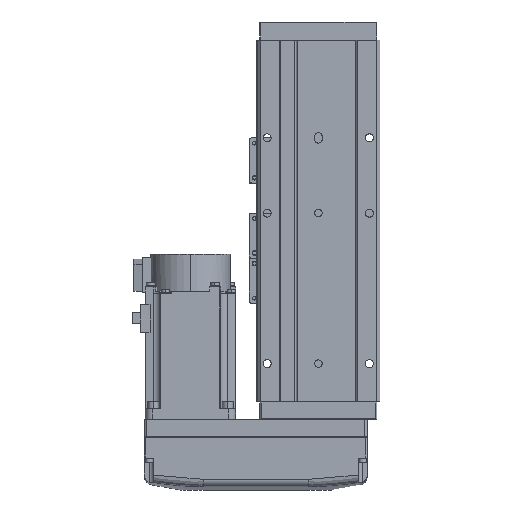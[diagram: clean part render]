
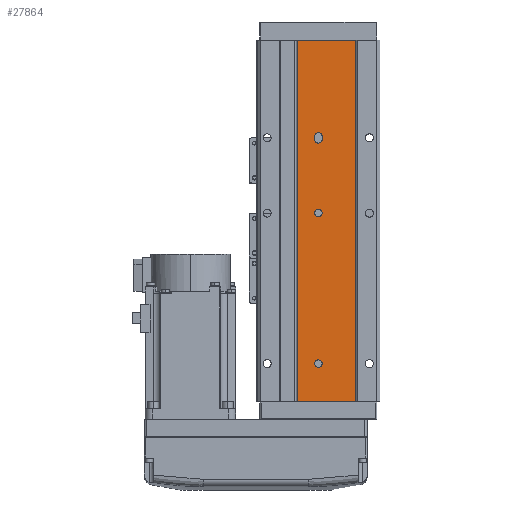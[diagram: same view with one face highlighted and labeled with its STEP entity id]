
A CAD part, front view. The second image highlights one B-rep face of the part: STEP entity #27864.
In plain terms, the highlighted planar face has unit normal (0, -1, 0).
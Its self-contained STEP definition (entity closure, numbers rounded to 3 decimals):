
#172 = VERTEX_POINT ( 'NONE', #9194 ) ;
#731 = AXIS2_PLACEMENT_3D ( 'NONE', #40011, #12104, #24539 ) ;
#1047 = DIRECTION ( 'NONE',  ( 0., 0., -1. ) ) ;
#1409 = AXIS2_PLACEMENT_3D ( 'NONE', #11039, #23472, #35903 ) ;
#2499 = VERTEX_POINT ( 'NONE', #30270 ) ;
#2548 = CARTESIAN_POINT ( 'NONE',  ( 0., 1., 92.5 ) ) ;
#2999 = DIRECTION ( 'NONE',  ( 0., 0., -1. ) ) ;
#3251 = DIRECTION ( 'NONE',  ( 1., 0., 0. ) ) ;
#3665 = VECTOR ( 'NONE', #3251, 1000. ) ;
#3943 = ORIENTED_EDGE ( 'NONE', *, *, #11021, .F. ) ;
#4097 = DIRECTION ( 'NONE',  ( 0., 0., 1. ) ) ;
#4433 = VERTEX_POINT ( 'NONE', #4476 ) ;
#4476 = CARTESIAN_POINT ( 'NONE',  ( -2.5, 1., -56. ) ) ;
#5102 = CARTESIAN_POINT ( 'NONE',  ( 0., 1., -54. ) ) ;
#5405 = VECTOR ( 'NONE', #32458, 1000. ) ;
#5483 = EDGE_CURVE ( 'NONE', #8279, #35400, #18282, .T. ) ;
#6076 = VERTEX_POINT ( 'NONE', #7287 ) ;
#6303 = ORIENTED_EDGE ( 'NONE', *, *, #12725, .T. ) ;
#6818 = DIRECTION ( 'NONE',  ( 0., -1., 0. ) ) ;
#7103 = CARTESIAN_POINT ( 'NONE',  ( -25., 1., 120. ) ) ;
#7138 = PLANE ( 'NONE',  #31152 ) ;
#7261 = CIRCLE ( 'NONE', #30063, 2.5 ) ;
#7287 = CARTESIAN_POINT ( 'NONE',  ( 0., 1., -58.5 ) ) ;
#7595 = LINE ( 'NONE', #20025, #5405 ) ;
#7989 = EDGE_CURVE ( 'NONE', #38067, #2499, #18730, .T. ) ;
#8279 = VERTEX_POINT ( 'NONE', #2548 ) ;
#8575 = ORIENTED_EDGE ( 'NONE', *, *, #26533, .F. ) ;
#9076 = CARTESIAN_POINT ( 'NONE',  ( 0., 1., -7.5 ) ) ;
#9194 = CARTESIAN_POINT ( 'NONE',  ( 14., 1., -120. ) ) ;
#9606 = ORIENTED_EDGE ( 'NONE', *, *, #17438, .F. ) ;
#9710 = CARTESIAN_POINT ( 'NONE',  ( 0., 1., 97.5 ) ) ;
#9737 = CARTESIAN_POINT ( 'NONE',  ( 14., 1., 120. ) ) ;
#10206 = FACE_BOUND ( 'NONE', #28275, .T. ) ;
#10619 = DIRECTION ( 'NONE',  ( 1., 0., 0. ) ) ;
#10706 = CARTESIAN_POINT ( 'NONE',  ( 0., 1., -5. ) ) ;
#11021 = EDGE_CURVE ( 'NONE', #16786, #23511, #37825, .T. ) ;
#11039 = CARTESIAN_POINT ( 'NONE',  ( 0., 1., -56. ) ) ;
#11114 = EDGE_LOOP ( 'NONE', ( #6303, #20455, #28380, #32381 ) ) ;
#11877 = CIRCLE ( 'NONE', #34655, 2.5 ) ;
#12104 = DIRECTION ( 'NONE',  ( 0., -1., 0. ) ) ;
#12144 = LINE ( 'NONE', #24578, #38215 ) ;
#12201 = EDGE_CURVE ( 'NONE', #6076, #23292, #11877, .T. ) ;
#12450 = VECTOR ( 'NONE', #10619, 1000. ) ;
#12725 = EDGE_CURVE ( 'NONE', #30447, #172, #26096, .T. ) ;
#13084 = EDGE_LOOP ( 'NONE', ( #8575, #3943, #29045, #18595, #9606 ) ) ;
#13118 = EDGE_CURVE ( 'NONE', #19646, #22037, #7261, .T. ) ;
#14357 = CIRCLE ( 'NONE', #37147, 2.5 ) ;
#14448 = CARTESIAN_POINT ( 'NONE',  ( 0., 1., -5. ) ) ;
#14974 = VECTOR ( 'NONE', #22175, 1000. ) ;
#15328 = AXIS2_PLACEMENT_3D ( 'NONE', #14448, #26892, #39308 ) ;
#16268 = EDGE_CURVE ( 'NONE', #2499, #172, #37657, .T. ) ;
#16287 = EDGE_LOOP ( 'NONE', ( #16758, #27675 ) ) ;
#16528 = LINE ( 'NONE', #28969, #26335 ) ;
#16707 = CARTESIAN_POINT ( 'NONE',  ( 0., 1., -2.5 ) ) ;
#16758 = ORIENTED_EDGE ( 'NONE', *, *, #13118, .F. ) ;
#16786 = VERTEX_POINT ( 'NONE', #22335 ) ;
#17432 = CARTESIAN_POINT ( 'NONE',  ( 2.5, 1., -56. ) ) ;
#17438 = EDGE_CURVE ( 'NONE', #4433, #6076, #18988, .T. ) ;
#17525 = DIRECTION ( 'NONE',  ( 0., -1., 0. ) ) ;
#18282 = CIRCLE ( 'NONE', #731, 2.5 ) ;
#18477 = CARTESIAN_POINT ( 'NONE',  ( 0., 1., 95. ) ) ;
#18595 = ORIENTED_EDGE ( 'NONE', *, *, #12201, .F. ) ;
#18730 = LINE ( 'NONE', #31165, #3665 ) ;
#18988 = CIRCLE ( 'NONE', #1409, 2.5 ) ;
#19235 = DIRECTION ( 'NONE',  ( 0., 0., -1. ) ) ;
#19564 = CARTESIAN_POINT ( 'NONE',  ( -25., 1., 120. ) ) ;
#19646 = VERTEX_POINT ( 'NONE', #9076 ) ;
#20025 = CARTESIAN_POINT ( 'NONE',  ( 2.5, 1., -54. ) ) ;
#20237 = AXIS2_PLACEMENT_3D ( 'NONE', #5102, #17525, #29963 ) ;
#20455 = ORIENTED_EDGE ( 'NONE', *, *, #16268, .F. ) ;
#22037 = VERTEX_POINT ( 'NONE', #16707 ) ;
#22175 = DIRECTION ( 'NONE',  ( 0., 0., -1. ) ) ;
#22335 = CARTESIAN_POINT ( 'NONE',  ( 2.5, 1., -54. ) ) ;
#22642 = FACE_BOUND ( 'NONE', #16287, .T. ) ;
#23147 = DIRECTION ( 'NONE',  ( 0., -1., 0. ) ) ;
#23292 = VERTEX_POINT ( 'NONE', #17432 ) ;
#23472 = DIRECTION ( 'NONE',  ( 0., -1., 0. ) ) ;
#23511 = VERTEX_POINT ( 'NONE', #34335 ) ;
#24001 = ORIENTED_EDGE ( 'NONE', *, *, #29890, .F. ) ;
#24539 = DIRECTION ( 'NONE',  ( 0., 0., -1. ) ) ;
#24578 = CARTESIAN_POINT ( 'NONE',  ( -2.5, 1., -54. ) ) ;
#26096 = LINE ( 'NONE', #38532, #12450 ) ;
#26335 = VECTOR ( 'NONE', #1047, 1000. ) ;
#26533 = EDGE_CURVE ( 'NONE', #23511, #4433, #12144, .T. ) ;
#26892 = DIRECTION ( 'NONE',  ( 0., -1., 0. ) ) ;
#27024 = ORIENTED_EDGE ( 'NONE', *, *, #5483, .F. ) ;
#27675 = ORIENTED_EDGE ( 'NONE', *, *, #32077, .F. ) ;
#27864 = ADVANCED_FACE ( 'NONE', ( #38118, #10206, #22642, #35066 ), #7138, .F. ) ;
#28275 = EDGE_LOOP ( 'NONE', ( #27024, #24001 ) ) ;
#28380 = ORIENTED_EDGE ( 'NONE', *, *, #7989, .F. ) ;
#28969 = CARTESIAN_POINT ( 'NONE',  ( -25., 1., 120. ) ) ;
#29045 = ORIENTED_EDGE ( 'NONE', *, *, #37190, .F. ) ;
#29890 = EDGE_CURVE ( 'NONE', #35400, #8279, #14357, .T. ) ;
#29963 = DIRECTION ( 'NONE',  ( 0., 0., -1. ) ) ;
#30063 = AXIS2_PLACEMENT_3D ( 'NONE', #10706, #23147, #35574 ) ;
#30270 = CARTESIAN_POINT ( 'NONE',  ( 14., 1., 120. ) ) ;
#30447 = VERTEX_POINT ( 'NONE', #37585 ) ;
#30909 = DIRECTION ( 'NONE',  ( 0., -1., 0. ) ) ;
#31152 = AXIS2_PLACEMENT_3D ( 'NONE', #19564, #32011, #4097 ) ;
#31165 = CARTESIAN_POINT ( 'NONE',  ( -25., 1., 120. ) ) ;
#32011 = DIRECTION ( 'NONE',  ( 0., 1., 0. ) ) ;
#32077 = EDGE_CURVE ( 'NONE', #22037, #19646, #32903, .T. ) ;
#32381 = ORIENTED_EDGE ( 'NONE', *, *, #37623, .T. ) ;
#32458 = DIRECTION ( 'NONE',  ( 0., 0., 1. ) ) ;
#32903 = CIRCLE ( 'NONE', #15328, 2.5 ) ;
#34335 = CARTESIAN_POINT ( 'NONE',  ( -2.5, 1., -54. ) ) ;
#34655 = AXIS2_PLACEMENT_3D ( 'NONE', #34732, #6818, #19235 ) ;
#34732 = CARTESIAN_POINT ( 'NONE',  ( 0., 1., -56. ) ) ;
#35066 = FACE_OUTER_BOUND ( 'NONE', #11114, .T. ) ;
#35400 = VERTEX_POINT ( 'NONE', #9710 ) ;
#35574 = DIRECTION ( 'NONE',  ( 0., 0., -1. ) ) ;
#35903 = DIRECTION ( 'NONE',  ( 0., 0., -1. ) ) ;
#37004 = DIRECTION ( 'NONE',  ( 0., 0., -1. ) ) ;
#37147 = AXIS2_PLACEMENT_3D ( 'NONE', #18477, #30909, #2999 ) ;
#37190 = EDGE_CURVE ( 'NONE', #23292, #16786, #7595, .T. ) ;
#37585 = CARTESIAN_POINT ( 'NONE',  ( -25., 1., -120. ) ) ;
#37623 = EDGE_CURVE ( 'NONE', #38067, #30447, #16528, .T. ) ;
#37657 = LINE ( 'NONE', #9737, #14974 ) ;
#37825 = CIRCLE ( 'NONE', #20237, 2.5 ) ;
#38067 = VERTEX_POINT ( 'NONE', #7103 ) ;
#38118 = FACE_BOUND ( 'NONE', #13084, .T. ) ;
#38215 = VECTOR ( 'NONE', #37004, 1000. ) ;
#38532 = CARTESIAN_POINT ( 'NONE',  ( -25., 1., -120. ) ) ;
#39308 = DIRECTION ( 'NONE',  ( 0., 0., -1. ) ) ;
#40011 = CARTESIAN_POINT ( 'NONE',  ( 0., 1., 95. ) ) ;
